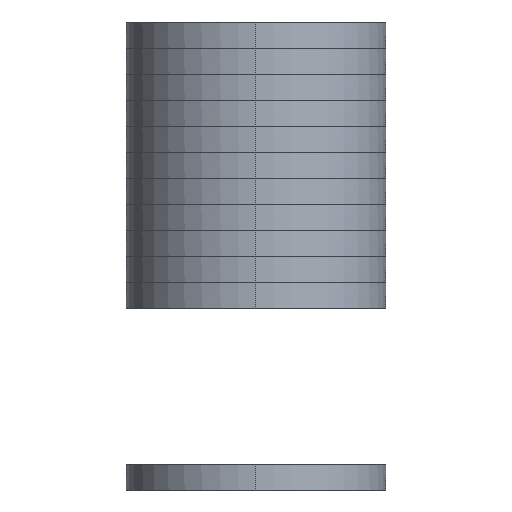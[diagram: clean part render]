
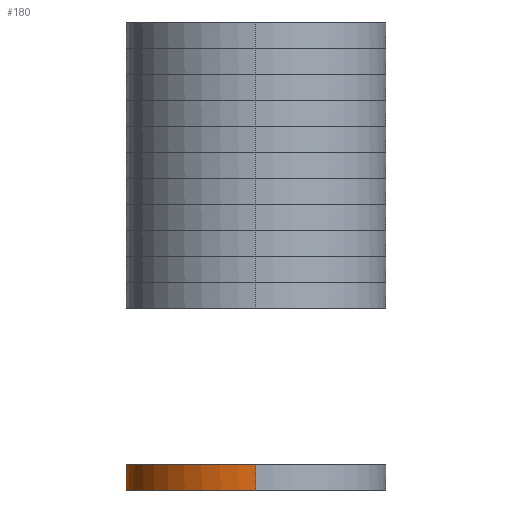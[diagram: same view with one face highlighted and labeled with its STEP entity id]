
A CAD part, left-side view. The second image highlights one B-rep face of the part: STEP entity #180.
In plain terms, the highlighted free-form (B-spline) face has degree [1, 2] with [2, 9] control points.
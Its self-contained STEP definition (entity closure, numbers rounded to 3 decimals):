
#180=ADVANCED_FACE('',(#186),#360,.T.);
#186=FACE_OUTER_BOUND('',#192,.T.);
#192=EDGE_LOOP('',(#203,#204,#205,#206));
#203=ORIENTED_EDGE('',*,*,#299,.T.);
#204=ORIENTED_EDGE('',*,*,#300,.T.);
#205=ORIENTED_EDGE('',*,*,#301,.T.);
#206=ORIENTED_EDGE('',*,*,#302,.T.);
#221=(
BOUNDED_CURVE()
B_SPLINE_CURVE(2,(#582,#583,#584,#585,#586),.UNSPECIFIED.,.F.,.F.)
B_SPLINE_CURVE_WITH_KNOTS((3,2,3),(1.,2.571,4.142),
 .UNSPECIFIED.)
CURVE()
GEOMETRIC_REPRESENTATION_ITEM()
RATIONAL_B_SPLINE_CURVE((1.,0.707,1.,0.707,1.))
REPRESENTATION_ITEM('')
);
#222=(
BOUNDED_CURVE()
B_SPLINE_CURVE(2,(#593,#594,#595,#596,#597),.UNSPECIFIED.,.F.,.F.)
B_SPLINE_CURVE_WITH_KNOTS((3,2,3),(5.142,6.712,8.283),
 .UNSPECIFIED.)
CURVE()
GEOMETRIC_REPRESENTATION_ITEM()
RATIONAL_B_SPLINE_CURVE((1.,0.707,1.,0.707,1.))
REPRESENTATION_ITEM('')
);
#239=PCURVE('',#360,#259);
#240=PCURVE('',#360,#260);
#241=PCURVE('',#360,#261);
#242=PCURVE('',#360,#262);
#259=DEFINITIONAL_REPRESENTATION('',(#322),#791);
#260=DEFINITIONAL_REPRESENTATION('',(#323),#791);
#261=DEFINITIONAL_REPRESENTATION('',(#325),#791);
#262=DEFINITIONAL_REPRESENTATION('',(#326),#791);
#279=SURFACE_CURVE('',#321,(#239),.PCURVE_S1.);
#280=SURFACE_CURVE('',#221,(#240),.PCURVE_S1.);
#281=SURFACE_CURVE('',#324,(#241),.PCURVE_S1.);
#282=SURFACE_CURVE('',#222,(#242),.PCURVE_S1.);
#299=EDGE_CURVE('',#343,#344,#279,.T.);
#300=EDGE_CURVE('',#344,#345,#280,.T.);
#301=EDGE_CURVE('',#345,#346,#281,.T.);
#302=EDGE_CURVE('',#346,#343,#282,.T.);
#321=B_SPLINE_CURVE_WITH_KNOTS('',1,(#578,#579),.UNSPECIFIED.,.F.,.F.,(2,
2),(0.,1.),.UNSPECIFIED.);
#322=B_SPLINE_CURVE_WITH_KNOTS('',1,(#580,#581),.UNSPECIFIED.,.F.,.F.,(2,
2),(0.,1.),.UNSPECIFIED.);
#323=B_SPLINE_CURVE_WITH_KNOTS('',1,(#587,#588),.UNSPECIFIED.,.F.,.F.,(2,
2),(1.,4.142),.UNSPECIFIED.);
#324=B_SPLINE_CURVE_WITH_KNOTS('',1,(#589,#590),.UNSPECIFIED.,.F.,.F.,(2,
2),(4.142,5.142),.UNSPECIFIED.);
#325=B_SPLINE_CURVE_WITH_KNOTS('',1,(#591,#592),.UNSPECIFIED.,.F.,.F.,(2,
2),(4.142,5.142),.UNSPECIFIED.);
#326=B_SPLINE_CURVE_WITH_KNOTS('',1,(#598,#599),.UNSPECIFIED.,.F.,.F.,(2,
2),(5.142,8.283),.UNSPECIFIED.);
#343=VERTEX_POINT('',#574);
#344=VERTEX_POINT('',#575);
#345=VERTEX_POINT('',#576);
#346=VERTEX_POINT('',#577);
#360=(
BOUNDED_SURFACE()
B_SPLINE_SURFACE(1,2,((#556,#557,#558,#559,#560,#561,#562,#563,#564),(#565,
#566,#567,#568,#569,#570,#571,#572,#573)),.UNSPECIFIED.,.F.,.F.,.F.)
B_SPLINE_SURFACE_WITH_KNOTS((2,2),(3,2,2,2,3),(0.,1.),(0.,1.571,
3.142,4.712,6.283),.UNSPECIFIED.)
GEOMETRIC_REPRESENTATION_ITEM()
RATIONAL_B_SPLINE_SURFACE(((1.,0.707,1.,0.707,1.,
0.707,1.,0.707,1.),(1.,0.707,1.,0.707,
1.,0.707,1.,0.707,1.)))
REPRESENTATION_ITEM('')
SURFACE()
);
#556=CARTESIAN_POINT('',(-1.,5.,0.));
#557=CARTESIAN_POINT('',(-1.,5.,-5.));
#558=CARTESIAN_POINT('',(-1.,0.,-5.));
#559=CARTESIAN_POINT('',(-1.,-5.,-5.));
#560=CARTESIAN_POINT('',(-1.,-5.,0.));
#561=CARTESIAN_POINT('',(-1.,-5.,5.));
#562=CARTESIAN_POINT('',(-1.,0.,5.));
#563=CARTESIAN_POINT('',(-1.,5.,5.));
#564=CARTESIAN_POINT('',(-1.,5.,0.));
#565=CARTESIAN_POINT('',(0.,5.,0.));
#566=CARTESIAN_POINT('',(0.,5.,-5.));
#567=CARTESIAN_POINT('',(0.,0.,-5.));
#568=CARTESIAN_POINT('',(0.,-5.,-5.));
#569=CARTESIAN_POINT('',(0.,-5.,0.));
#570=CARTESIAN_POINT('',(0.,-5.,5.));
#571=CARTESIAN_POINT('',(0.,0.,5.));
#572=CARTESIAN_POINT('',(0.,5.,5.));
#573=CARTESIAN_POINT('',(0.,5.,0.));
#574=CARTESIAN_POINT('',(-1.,5.,0.));
#575=CARTESIAN_POINT('',(0.,5.,0.));
#576=CARTESIAN_POINT('',(0.,-5.,0.));
#577=CARTESIAN_POINT('',(-1.,-5.,0.));
#578=CARTESIAN_POINT('',(-1.,5.,0.));
#579=CARTESIAN_POINT('',(0.,5.,0.));
#580=CARTESIAN_POINT('',(0.,0.));
#581=CARTESIAN_POINT('',(1.,0.));
#582=CARTESIAN_POINT('',(0.,5.,0.));
#583=CARTESIAN_POINT('',(0.,5.,-5.));
#584=CARTESIAN_POINT('',(0.,0.,-5.));
#585=CARTESIAN_POINT('',(0.,-5.,-5.));
#586=CARTESIAN_POINT('',(0.,-5.,0.));
#587=CARTESIAN_POINT('',(1.,0.));
#588=CARTESIAN_POINT('',(1.,3.142));
#589=CARTESIAN_POINT('',(0.,-5.,0.));
#590=CARTESIAN_POINT('',(-1.,-5.,0.));
#591=CARTESIAN_POINT('',(1.,3.142));
#592=CARTESIAN_POINT('',(0.,3.142));
#593=CARTESIAN_POINT('',(-1.,-5.,0.));
#594=CARTESIAN_POINT('',(-1.,-5.,-5.));
#595=CARTESIAN_POINT('',(-1.,0.,-5.));
#596=CARTESIAN_POINT('',(-1.,5.,-5.));
#597=CARTESIAN_POINT('',(-1.,5.,0.));
#598=CARTESIAN_POINT('',(0.,3.142));
#599=CARTESIAN_POINT('',(0.,0.));
#791=(
GEOMETRIC_REPRESENTATION_CONTEXT(2)
PARAMETRIC_REPRESENTATION_CONTEXT()
REPRESENTATION_CONTEXT('pspace','')
);
